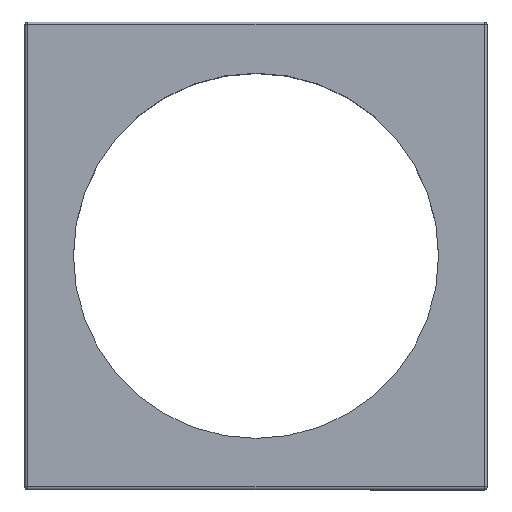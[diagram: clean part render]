
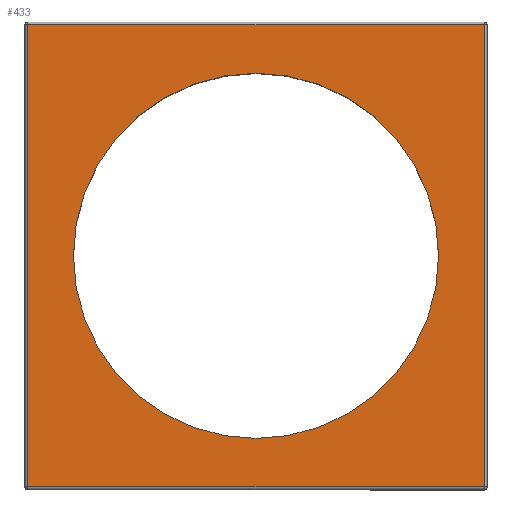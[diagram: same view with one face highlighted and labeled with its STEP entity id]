
A CAD part, top view. The second image highlights one B-rep face of the part: STEP entity #433.
In plain terms, the highlighted planar face has unit normal (0, 0, 1).
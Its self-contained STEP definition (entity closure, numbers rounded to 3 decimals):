
#23 = CARTESIAN_POINT ( 'NONE',  ( 2266.742, -635.856, 0. ) ) ;
#76 = EDGE_LOOP ( 'NONE', ( #250, #781, #5571, #2874 ) ) ;
#82 = CARTESIAN_POINT ( 'NONE',  ( 2283.142, -635.856, 0. ) ) ;
#177 = DIRECTION ( 'NONE',  ( 0., 0., -1. ) ) ;
#193 = CIRCLE ( 'NONE', #1559, 16.4 ) ;
#250 = ORIENTED_EDGE ( 'NONE', *, *, #3769, .F. ) ;
#433 = ADVANCED_FACE ( 'NONE', ( #1160, #1321 ), #723, .F. ) ;
#502 = LINE ( 'NONE', #2122, #1733 ) ;
#670 = DIRECTION ( 'NONE',  ( 0., 0., 1. ) ) ;
#723 = PLANE ( 'NONE',  #6001 ) ;
#781 = ORIENTED_EDGE ( 'NONE', *, *, #1463, .F. ) ;
#1160 = FACE_BOUND ( 'NONE', #7346, .T. ) ;
#1321 = FACE_OUTER_BOUND ( 'NONE', #76, .T. ) ;
#1463 = EDGE_CURVE ( 'NONE', #5648, #6025, #2455, .T. ) ;
#1506 = EDGE_CURVE ( 'NONE', #6688, #5648, #2988, .T. ) ;
#1556 = LINE ( 'NONE', #2270, #2792 ) ;
#1559 = AXIS2_PLACEMENT_3D ( 'NONE', #82, #670, #5793 ) ;
#1686 = CARTESIAN_POINT ( 'NONE',  ( 2283.142, -615.106, 0. ) ) ;
#1733 = VECTOR ( 'NONE', #4387, 1000. ) ;
#1952 = DIRECTION ( 'NONE',  ( 0., 0., 1. ) ) ;
#2122 = CARTESIAN_POINT ( 'NONE',  ( 2303.642, -635.856, 0. ) ) ;
#2144 = CARTESIAN_POINT ( 'NONE',  ( 2262.642, -635.856, 0. ) ) ;
#2269 = DIRECTION ( 'NONE',  ( 1., 0., 0. ) ) ;
#2270 = CARTESIAN_POINT ( 'NONE',  ( 2283.142, -656.606, 0. ) ) ;
#2365 = CIRCLE ( 'NONE', #5998, 16.4 ) ;
#2455 = LINE ( 'NONE', #1686, #4865 ) ;
#2792 = VECTOR ( 'NONE', #4030, 1000. ) ;
#2874 = ORIENTED_EDGE ( 'NONE', *, *, #3582, .F. ) ;
#2985 = CARTESIAN_POINT ( 'NONE',  ( 2283.142, -635.856, 0. ) ) ;
#2988 = LINE ( 'NONE', #2144, #6375 ) ;
#3035 = EDGE_CURVE ( 'NONE', #3512, #5069, #2365, .T. ) ;
#3458 = CARTESIAN_POINT ( 'NONE',  ( 2262.642, -656.606, 0. ) ) ;
#3512 = VERTEX_POINT ( 'NONE', #5740 ) ;
#3582 = EDGE_CURVE ( 'NONE', #6689, #6688, #1556, .T. ) ;
#3769 = EDGE_CURVE ( 'NONE', #6025, #6689, #502, .T. ) ;
#4030 = DIRECTION ( 'NONE',  ( -1., 0., 0. ) ) ;
#4125 = DIRECTION ( 'NONE',  ( -1., 0., 0. ) ) ;
#4267 = CARTESIAN_POINT ( 'NONE',  ( 2303.642, -615.106, 0. ) ) ;
#4387 = DIRECTION ( 'NONE',  ( 0., -1., 0. ) ) ;
#4807 = CARTESIAN_POINT ( 'NONE',  ( 2262.642, -615.106, 0. ) ) ;
#4865 = VECTOR ( 'NONE', #2269, 1000. ) ;
#5069 = VERTEX_POINT ( 'NONE', #23 ) ;
#5163 = CARTESIAN_POINT ( 'NONE',  ( 2303.642, -656.606, 0. ) ) ;
#5347 = CARTESIAN_POINT ( 'NONE',  ( 2283.142, -635.856, 0. ) ) ;
#5433 = ORIENTED_EDGE ( 'NONE', *, *, #7280, .F. ) ;
#5571 = ORIENTED_EDGE ( 'NONE', *, *, #1506, .F. ) ;
#5648 = VERTEX_POINT ( 'NONE', #4807 ) ;
#5740 = CARTESIAN_POINT ( 'NONE',  ( 2299.542, -635.856, 0. ) ) ;
#5793 = DIRECTION ( 'NONE',  ( 1., 0., 0. ) ) ;
#5917 = DIRECTION ( 'NONE',  ( 1., 0., 0. ) ) ;
#5998 = AXIS2_PLACEMENT_3D ( 'NONE', #5347, #1952, #5917 ) ;
#6001 = AXIS2_PLACEMENT_3D ( 'NONE', #2985, #177, #4125 ) ;
#6019 = DIRECTION ( 'NONE',  ( 0., 1., 0. ) ) ;
#6025 = VERTEX_POINT ( 'NONE', #4267 ) ;
#6375 = VECTOR ( 'NONE', #6019, 1000. ) ;
#6688 = VERTEX_POINT ( 'NONE', #3458 ) ;
#6689 = VERTEX_POINT ( 'NONE', #5163 ) ;
#6759 = ORIENTED_EDGE ( 'NONE', *, *, #3035, .F. ) ;
#7280 = EDGE_CURVE ( 'NONE', #5069, #3512, #193, .T. ) ;
#7346 = EDGE_LOOP ( 'NONE', ( #6759, #5433 ) ) ;
